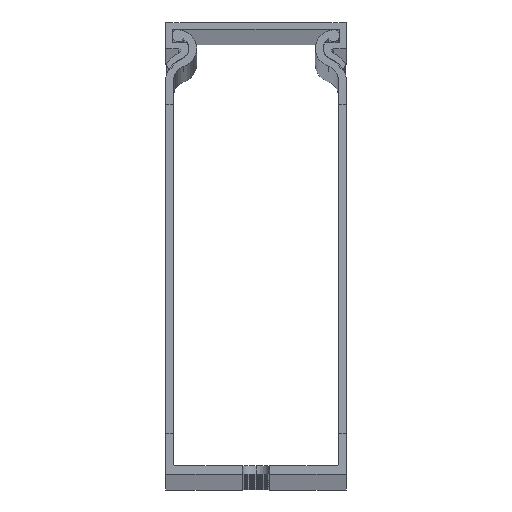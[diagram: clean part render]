
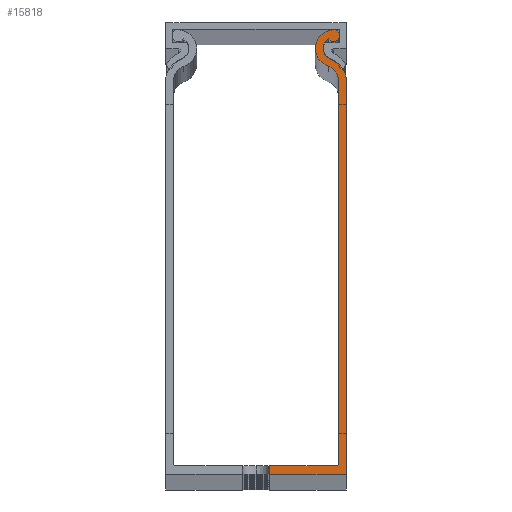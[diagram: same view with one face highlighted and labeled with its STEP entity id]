
A CAD part, top view. The second image highlights one B-rep face of the part: STEP entity #15818.
In plain terms, the highlighted planar face has unit normal (0, 0, 1).
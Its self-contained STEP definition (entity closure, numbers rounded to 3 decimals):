
#74 = DIRECTION ( 'NONE',  ( 1., 0., 0. ) ) ;
#138 = VECTOR ( 'NONE', #31316, 1000. ) ;
#170 = ORIENTED_EDGE ( 'NONE', *, *, #1578, .T. ) ;
#454 = CARTESIAN_POINT ( 'NONE',  ( 2583.255, 1291.356, 2000. ) ) ;
#823 = ORIENTED_EDGE ( 'NONE', *, *, #35530, .F. ) ;
#1454 = EDGE_CURVE ( 'NONE', #43308, #39176, #28541, .T. ) ;
#1578 = EDGE_CURVE ( 'NONE', #10080, #36544, #40809, .T. ) ;
#1737 = CARTESIAN_POINT ( 'NONE',  ( 2586.207, 1198.956, 2000. ) ) ;
#2121 = VERTEX_POINT ( 'NONE', #29128 ) ;
#3073 = CARTESIAN_POINT ( 'NONE',  ( 2586.707, 1199.456, 2000. ) ) ;
#3132 = CARTESIAN_POINT ( 'NONE',  ( 2585.655, 1291.356, 2000. ) ) ;
#3586 = VERTEX_POINT ( 'NONE', #37708 ) ;
#4176 = ORIENTED_EDGE ( 'NONE', *, *, #20976, .T. ) ;
#5294 = CARTESIAN_POINT ( 'NONE',  ( 2584.527, 1293.474, 2000. ) ) ;
#5452 = CARTESIAN_POINT ( 'NONE',  ( 2584.904, 1289.077, 2000. ) ) ;
#5600 = AXIS2_PLACEMENT_3D ( 'NONE', #51806, #39695, #19524 ) ;
#5721 = VERTEX_POINT ( 'NONE', #10013 ) ;
#6385 = VERTEX_POINT ( 'NONE', #3073 ) ;
#6751 = DIRECTION ( 'NONE',  ( 1., 0., 0. ) ) ;
#6782 = EDGE_CURVE ( 'NONE', #12785, #10080, #31184, .T. ) ;
#6925 = DIRECTION ( 'NONE',  ( 0., 0., 1. ) ) ;
#7368 = DIRECTION ( 'NONE',  ( 0., -1., 0. ) ) ;
#7653 = EDGE_CURVE ( 'NONE', #36544, #53050, #25235, .T. ) ;
#8218 = AXIS2_PLACEMENT_3D ( 'NONE', #49046, #28469, #74 ) ;
#8359 = AXIS2_PLACEMENT_3D ( 'NONE', #12991, #46462, #13164 ) ;
#9103 = EDGE_CURVE ( 'NONE', #11388, #18160, #36646, .T. ) ;
#9505 = DIRECTION ( 'NONE',  ( 0., 0., 1. ) ) ;
#9829 = ORIENTED_EDGE ( 'NONE', *, *, #10535, .T. ) ;
#10013 = CARTESIAN_POINT ( 'NONE',  ( 2584.372, 1287.462, 2000. ) ) ;
#10080 = VERTEX_POINT ( 'NONE', #454 ) ;
#10340 = CIRCLE ( 'NONE', #35810, 5.1 ) ;
#10535 = EDGE_CURVE ( 'NONE', #52790, #6385, #29426, .T. ) ;
#11202 = VECTOR ( 'NONE', #43576, 1000. ) ;
#11388 = VERTEX_POINT ( 'NONE', #1737 ) ;
#12695 = ORIENTED_EDGE ( 'NONE', *, *, #44796, .T. ) ;
#12785 = VERTEX_POINT ( 'NONE', #5452 ) ;
#12991 = CARTESIAN_POINT ( 'NONE',  ( 2585.655, 1291.356, 2000. ) ) ;
#12999 = ORIENTED_EDGE ( 'NONE', *, *, #9103, .T. ) ;
#13164 = DIRECTION ( 'NONE',  ( 1., 0., 0. ) ) ;
#13670 = DIRECTION ( 'NONE',  ( 0., 0., -1. ) ) ;
#15262 = DIRECTION ( 'NONE',  ( 1., 0., 0. ) ) ;
#15751 = DIRECTION ( 'NONE',  ( 0., 0., 1. ) ) ;
#15818 = ADVANCED_FACE ( 'NONE', ( #35947 ), #35577, .T. ) ;
#16233 = ORIENTED_EDGE ( 'NONE', *, *, #6782, .T. ) ;
#16611 = AXIS2_PLACEMENT_3D ( 'NONE', #3132, #15751, #27251 ) ;
#17256 = DIRECTION ( 'NONE',  ( 1., 0., 0. ) ) ;
#18136 = DIRECTION ( 'NONE',  ( 1., 0., 0. ) ) ;
#18160 = VERTEX_POINT ( 'NONE', #39525 ) ;
#18709 = CARTESIAN_POINT ( 'NONE',  ( 2588.407, 1197.056, 2000. ) ) ;
#19085 = AXIS2_PLACEMENT_3D ( 'NONE', #27645, #6925, #6751 ) ;
#19524 = DIRECTION ( 'NONE',  ( 1., 0., 0. ) ) ;
#19751 = ORIENTED_EDGE ( 'NONE', *, *, #35832, .T. ) ;
#20893 = LINE ( 'NONE', #18709, #11202 ) ;
#20976 = EDGE_CURVE ( 'NONE', #3586, #12785, #10340, .T. ) ;
#22493 = AXIS2_PLACEMENT_3D ( 'NONE', #43540, #51826, #15262 ) ;
#22745 = ORIENTED_EDGE ( 'NONE', *, *, #43229, .T. ) ;
#23113 = CARTESIAN_POINT ( 'NONE',  ( 2568.407, 1198.956, 2000. ) ) ;
#23775 = CARTESIAN_POINT ( 'NONE',  ( 2586.707, 1284.203, 2000. ) ) ;
#24249 = VECTOR ( 'NONE', #7368, 1000. ) ;
#24405 = DIRECTION ( 'NONE',  ( 1., 0., 0. ) ) ;
#24767 = CARTESIAN_POINT ( 'NONE',  ( 2583.307, 1284.233, 2000. ) ) ;
#25235 = CIRCLE ( 'NONE', #19085, 1.35 ) ;
#26279 = CARTESIAN_POINT ( 'NONE',  ( 2585.029, 1295.408, 2000. ) ) ;
#27182 = CARTESIAN_POINT ( 'NONE',  ( 2571.407, 1284.233, 2000. ) ) ;
#27251 = DIRECTION ( 'NONE',  ( 1., 0., 0. ) ) ;
#27403 = DIRECTION ( 'NONE',  ( 1., 0., 0. ) ) ;
#27645 = CARTESIAN_POINT ( 'NONE',  ( 2585.657, 1294.213, 2000. ) ) ;
#28469 = DIRECTION ( 'NONE',  ( 0., 0., -1. ) ) ;
#28541 = LINE ( 'NONE', #40026, #36932 ) ;
#29112 = ORIENTED_EDGE ( 'NONE', *, *, #1454, .T. ) ;
#29128 = CARTESIAN_POINT ( 'NONE',  ( 2581.555, 1291.356, 2000. ) ) ;
#29426 = LINE ( 'NONE', #23775, #24249 ) ;
#31184 = CIRCLE ( 'NONE', #32069, 2.4 ) ;
#31316 = DIRECTION ( 'NONE',  ( 0., 1., 0. ) ) ;
#31596 = CIRCLE ( 'NONE', #8359, 4.1 ) ;
#32069 = AXIS2_PLACEMENT_3D ( 'NONE', #41918, #13670, #17256 ) ;
#33073 = EDGE_LOOP ( 'NONE', ( #823, #29112, #42455, #4176, #16233, #170, #35522, #19751, #22745, #41331, #9829, #12695, #12999 ) ) ;
#33496 = VECTOR ( 'NONE', #49584, 1000. ) ;
#33572 = EDGE_CURVE ( 'NONE', #39176, #3586, #20893, .T. ) ;
#34954 = CIRCLE ( 'NONE', #16611, 4.1 ) ;
#35522 = ORIENTED_EDGE ( 'NONE', *, *, #7653, .T. ) ;
#35530 = EDGE_CURVE ( 'NONE', #43308, #18160, #49751, .T. ) ;
#35577 = PLANE ( 'NONE',  #22493 ) ;
#35810 = AXIS2_PLACEMENT_3D ( 'NONE', #50759, #9505, #18136 ) ;
#35832 = EDGE_CURVE ( 'NONE', #53050, #2121, #31596, .T. ) ;
#35947 = FACE_OUTER_BOUND ( 'NONE', #33073, .T. ) ;
#36544 = VERTEX_POINT ( 'NONE', #5294 ) ;
#36646 = LINE ( 'NONE', #23113, #33496 ) ;
#36932 = VECTOR ( 'NONE', #27403, 1000. ) ;
#37016 = DIRECTION ( 'NONE',  ( 0., 0., -1. ) ) ;
#37708 = CARTESIAN_POINT ( 'NONE',  ( 2588.407, 1284.196, 2000. ) ) ;
#37957 = CIRCLE ( 'NONE', #48203, 3.4 ) ;
#39176 = VERTEX_POINT ( 'NONE', #49163 ) ;
#39525 = CARTESIAN_POINT ( 'NONE',  ( 2571.407, 1198.956, 2000. ) ) ;
#39686 = CARTESIAN_POINT ( 'NONE',  ( 2571.407, 1197.056, 2000. ) ) ;
#39695 = DIRECTION ( 'NONE',  ( 0., 0., -1. ) ) ;
#39768 = EDGE_CURVE ( 'NONE', #5721, #52790, #37957, .T. ) ;
#40026 = CARTESIAN_POINT ( 'NONE',  ( 2568.407, 1197.056, 2000. ) ) ;
#40809 = CIRCLE ( 'NONE', #8218, 2.4 ) ;
#41331 = ORIENTED_EDGE ( 'NONE', *, *, #39768, .T. ) ;
#41918 = CARTESIAN_POINT ( 'NONE',  ( 2585.655, 1291.356, 2000. ) ) ;
#42455 = ORIENTED_EDGE ( 'NONE', *, *, #33572, .T. ) ;
#43229 = EDGE_CURVE ( 'NONE', #2121, #5721, #34954, .T. ) ;
#43308 = VERTEX_POINT ( 'NONE', #39686 ) ;
#43540 = CARTESIAN_POINT ( 'NONE',  ( 2553.507, 1284.233, 2000. ) ) ;
#43576 = DIRECTION ( 'NONE',  ( 0., 1., 0. ) ) ;
#44796 = EDGE_CURVE ( 'NONE', #6385, #11388, #46276, .T. ) ;
#46276 = CIRCLE ( 'NONE', #5600, 0.5 ) ;
#46462 = DIRECTION ( 'NONE',  ( 0., 0., 1. ) ) ;
#48203 = AXIS2_PLACEMENT_3D ( 'NONE', #24767, #37016, #24405 ) ;
#48312 = CARTESIAN_POINT ( 'NONE',  ( 2586.707, 1284.203, 2000. ) ) ;
#49046 = CARTESIAN_POINT ( 'NONE',  ( 2585.655, 1291.356, 2000. ) ) ;
#49163 = CARTESIAN_POINT ( 'NONE',  ( 2588.407, 1197.056, 2000. ) ) ;
#49584 = DIRECTION ( 'NONE',  ( -1., 0., 0. ) ) ;
#49751 = LINE ( 'NONE', #27182, #138 ) ;
#50759 = CARTESIAN_POINT ( 'NONE',  ( 2583.307, 1284.233, 2000. ) ) ;
#51806 = CARTESIAN_POINT ( 'NONE',  ( 2586.207, 1199.456, 2000. ) ) ;
#51826 = DIRECTION ( 'NONE',  ( 0., 0., 1. ) ) ;
#52790 = VERTEX_POINT ( 'NONE', #48312 ) ;
#53050 = VERTEX_POINT ( 'NONE', #26279 ) ;
